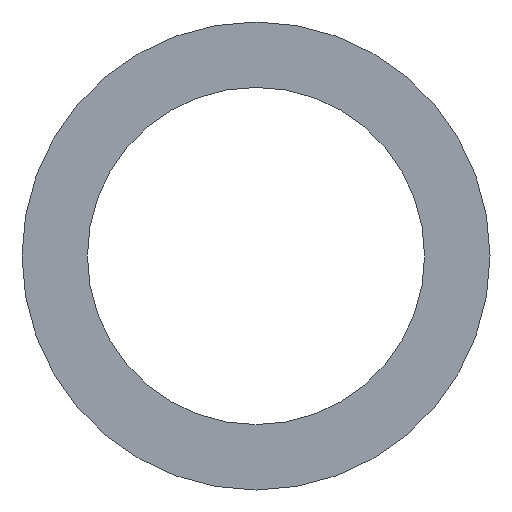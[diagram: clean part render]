
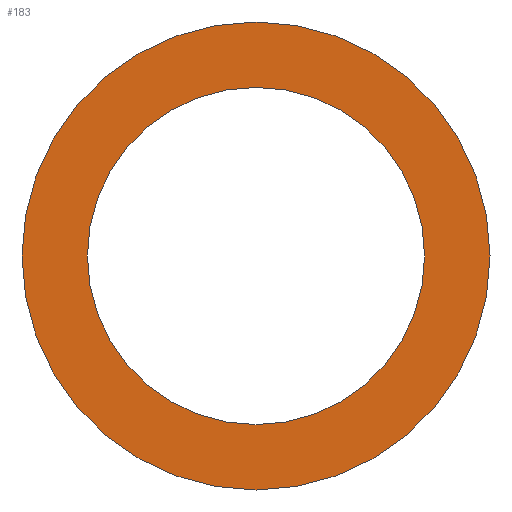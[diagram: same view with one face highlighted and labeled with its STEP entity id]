
A CAD part, left-side view. The second image highlights one B-rep face of the part: STEP entity #183.
In plain terms, the highlighted planar face has unit normal (-1, 0, 0).
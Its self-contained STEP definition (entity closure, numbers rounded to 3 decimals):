
#33=CARTESIAN_POINT('',(0.,342.5,0.));
#34=VERTEX_POINT('',#33);
#41=CARTESIAN_POINT('',(0.,0.,0.));
#42=DIRECTION('',(1.,0.,0.));
#43=DIRECTION('',(0.,1.,0.));
#44=AXIS2_PLACEMENT_3D('',#41,#42,#43);
#45=CIRCLE('',#44,342.5);
#46=EDGE_CURVE('',#34,#34,#45,.T.);
#148=CARTESIAN_POINT('',(0.,246.8,0.));
#149=VERTEX_POINT('',#148);
#156=CARTESIAN_POINT('',(0.,0.,0.));
#157=DIRECTION('',(1.,0.,0.));
#158=DIRECTION('',(0.,1.,0.));
#159=AXIS2_PLACEMENT_3D('',#156,#157,#158);
#160=CIRCLE('',#159,246.8);
#161=EDGE_CURVE('',#149,#149,#160,.T.);
#172=ORIENTED_EDGE('',*,*,#46,.F.);
#173=EDGE_LOOP('',(#172));
#174=FACE_OUTER_BOUND('',#173,.T.);
#175=ORIENTED_EDGE('',*,*,#161,.T.);
#176=EDGE_LOOP('',(#175));
#177=FACE_BOUND('',#176,.T.);
#178=CARTESIAN_POINT('',(0.,294.65,0.));
#179=DIRECTION('',(-1.,0.,0.));
#180=DIRECTION('',(0.,-1.,0.));
#181=AXIS2_PLACEMENT_3D('',#178,#179,#180);
#182=PLANE('',#181);
#183=ADVANCED_FACE('',(#174,#177),#182,.T.);
